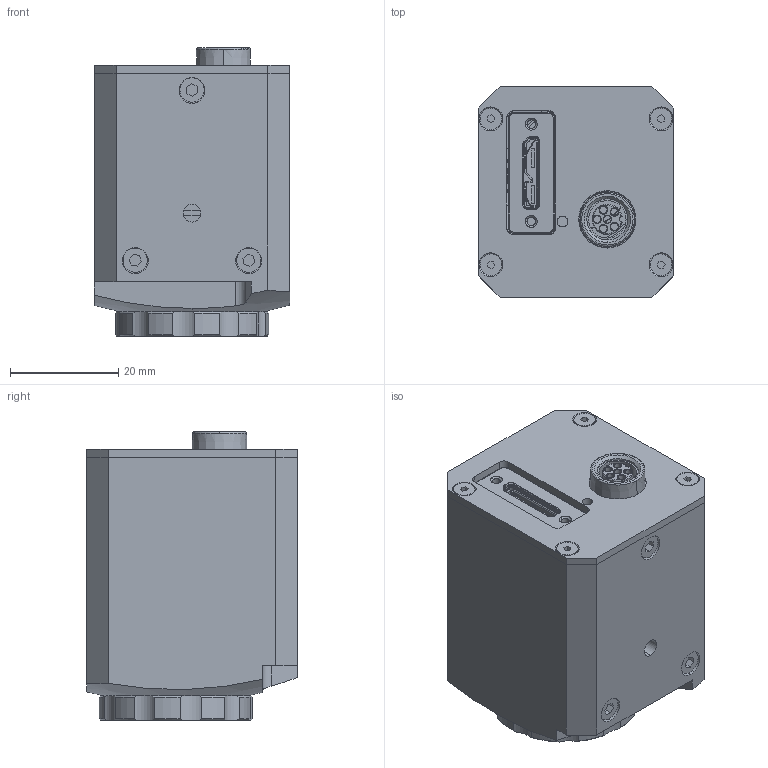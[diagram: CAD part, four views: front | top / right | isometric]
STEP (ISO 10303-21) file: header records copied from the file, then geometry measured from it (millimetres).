
FILE_DESCRIPTION (( 'STEP AP214' ), '1' );
FILE_NAME ('BeamPro B2.STEP', '2024-09-02T15:20:55', ( '' ), ( '' ), 'SwSTEP 2.0', 'SolidWorks 2020', '' );
FILE_SCHEMA (( 'AUTOMOTIVE_DESIGN' ));
Length unit declared in the file: millimetre
Products named in the file (1): BeamPro B2
Bounding box: 36.1 x 39 x 53.35 mm (x, y, z)
Surface area: 11651 mm2 (no closed solid volume)
Topology: 0 solids, 18 shells, 356 faces, 1368 edges, 1010 vertices
Faces by surface type: plane 140, cylinder 124, cone 45, torus 30, bspline 15, sphere 2
Entity records: 20422 total; most frequent: CARTESIAN_POINT 6900, ORIENTED_EDGE 2128, EDGE_CURVE 1368, DIRECTION 1347, VERTEX_POINT 1010, B_SPLINE_CURVE_WITH_KNOTS 887, AXIS2_PLACEMENT_3D 526, EDGE_LOOP 405
